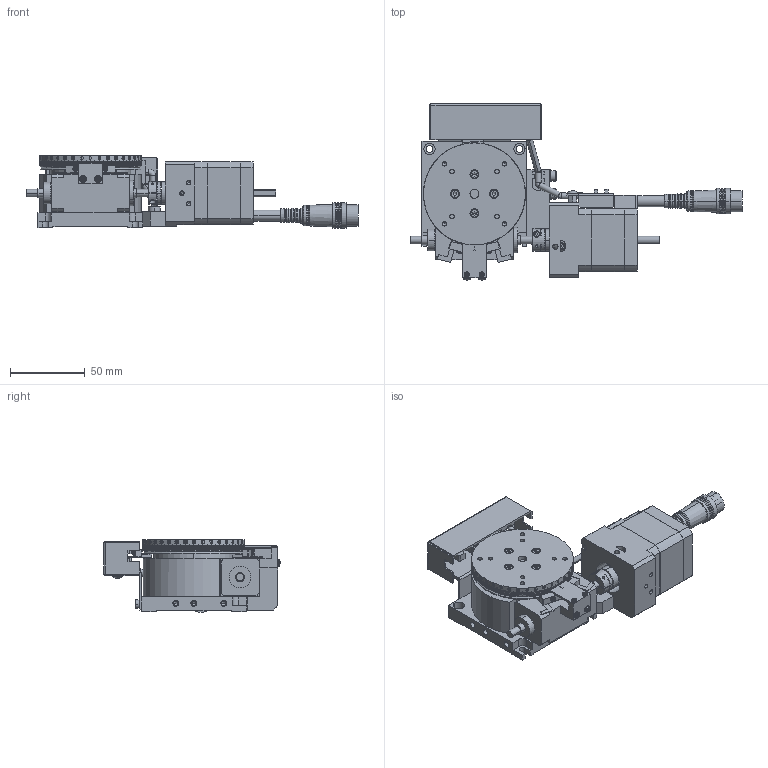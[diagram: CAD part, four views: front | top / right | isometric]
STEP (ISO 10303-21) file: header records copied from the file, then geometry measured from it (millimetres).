
FILE_DESCRIPTION (( 'STEP AP203' ), '1' );
FILE_NAME ('RA07A-W02.STEP', '2019-02-20T00:52:18', ( '' ), ( '' ), 'SwSTEP 2.0', 'SolidWorks 2018', '' );
FILE_SCHEMA (( 'CONFIG_CONTROL_DESIGN' ));
Length unit declared in the file: millimetre
Products named in the file (13): base; base-Part-2; base-Part-5; table; base-Part-4; base-Part-3; table-Part-5; table-Part-3; table-Part-2; base-Part-1; RA07A-W02; table-Part-1; table-Part-4
Assembly tree (12 placements, depth 3):
  RA07A-W02
    table
      table-Part-1
      table-Part-2
      table-Part-3
      table-Part-4
      table-Part-5
    base
      base-Part-1
      base-Part-2
      base-Part-3
      base-Part-4
      base-Part-5
Bounding box: 221.5 x 117.49 x 48.5 mm (x, y, z)
Volume: 333054.1 mm3; surface area: 93738.8 mm2
Topology: 10 solids, 12 shells, 4568 faces, 12236 edges, 7935 vertices
Faces by surface type: plane 3220, cylinder 1007, cone 261, torus 54, sphere 26
Entity records: 144207 total; most frequent: CARTESIAN_POINT 28292, ORIENTED_EDGE 24364, DIRECTION 24057, EDGE_CURVE 12182, AXIS2_PLACEMENT_3D 8310, VERTEX_POINT 7935, VECTOR 7437, LINE 7437
